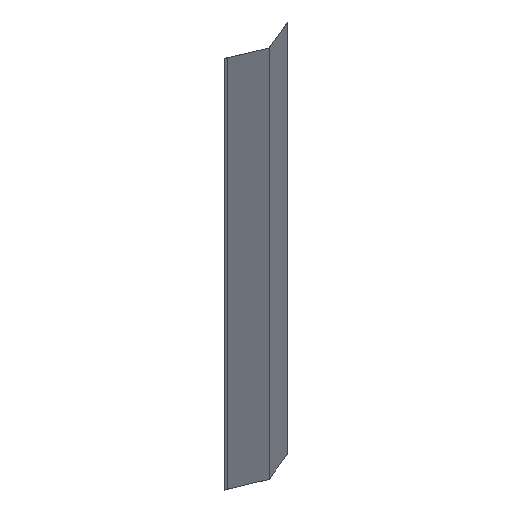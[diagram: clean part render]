
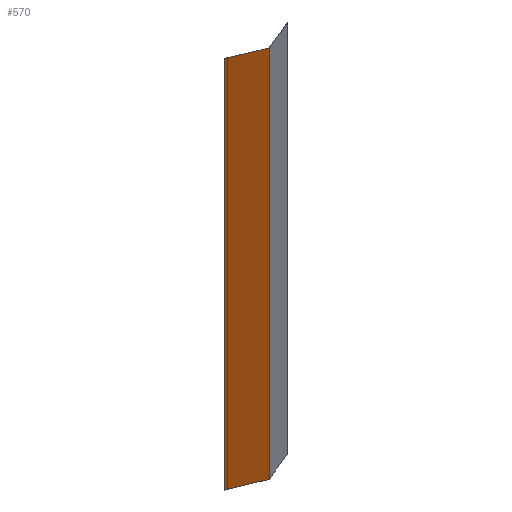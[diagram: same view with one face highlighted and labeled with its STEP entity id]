
A CAD part, isometric view. The second image highlights one B-rep face of the part: STEP entity #570.
In plain terms, the highlighted planar face has unit normal (-0.383, -0.924, 0).
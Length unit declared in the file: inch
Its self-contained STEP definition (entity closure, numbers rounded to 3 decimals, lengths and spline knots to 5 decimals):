
#2 = VERTEX_POINT ( 'NONE', #174 ) ;
#29 = AXIS2_PLACEMENT_3D ( 'NONE', #1010, #430, #95 ) ;
#54 = ORIENTED_EDGE ( 'NONE', *, *, #1053, .T. ) ;
#70 = DIRECTION ( 'NONE',  ( 0., 0., -1. ) ) ;
#78 = CARTESIAN_POINT ( 'NONE',  ( -0.01913, 0.00793, 120. ) ) ;
#95 = DIRECTION ( 'NONE',  ( 0.924, -0.383, 0. ) ) ;
#110 = DIRECTION ( 'NONE',  ( -0.924, 0.383, 0. ) ) ;
#162 = DIRECTION ( 'NONE',  ( 0., 0., -1. ) ) ;
#170 = ORIENTED_EDGE ( 'NONE', *, *, #270, .T. ) ;
#174 = CARTESIAN_POINT ( 'NONE',  ( -10.14947, 4.20405, 120. ) ) ;
#180 = EDGE_CURVE ( 'NONE', #283, #536, #310, .T. ) ;
#220 = CARTESIAN_POINT ( 'NONE',  ( -10.14947, 4.20405, 0. ) ) ;
#252 = VERTEX_POINT ( 'NONE', #220 ) ;
#270 = EDGE_CURVE ( 'NONE', #2, #252, #557, .T. ) ;
#283 = VERTEX_POINT ( 'NONE', #460 ) ;
#310 = LINE ( 'NONE', #78, #752 ) ;
#342 = LINE ( 'NONE', #812, #509 ) ;
#358 = EDGE_CURVE ( 'NONE', #536, #252, #342, .T. ) ;
#383 = VECTOR ( 'NONE', #162, 39.37008 ) ;
#430 = DIRECTION ( 'NONE',  ( -0.383, -0.924, 0. ) ) ;
#460 = CARTESIAN_POINT ( 'NONE',  ( -0.01913, 0.00793, 120. ) ) ;
#509 = VECTOR ( 'NONE', #110, 39.37008 ) ;
#536 = VERTEX_POINT ( 'NONE', #961 ) ;
#555 = LINE ( 'NONE', #890, #956 ) ;
#557 = LINE ( 'NONE', #1065, #383 ) ;
#570 = ADVANCED_FACE ( 'NONE', ( #939 ), #842, .T. ) ;
#583 = ORIENTED_EDGE ( 'NONE', *, *, #358, .F. ) ;
#642 = DIRECTION ( 'NONE',  ( -0.924, 0.383, 0. ) ) ;
#710 = ORIENTED_EDGE ( 'NONE', *, *, #180, .F. ) ;
#752 = VECTOR ( 'NONE', #70, 39.37008 ) ;
#812 = CARTESIAN_POINT ( 'NONE',  ( -0.01913, 0.00793, 0. ) ) ;
#842 = PLANE ( 'NONE',  #29 ) ;
#890 = CARTESIAN_POINT ( 'NONE',  ( -0.01913, 0.00793, 120. ) ) ;
#912 = EDGE_LOOP ( 'NONE', ( #583, #710, #54, #170 ) ) ;
#939 = FACE_OUTER_BOUND ( 'NONE', #912, .T. ) ;
#956 = VECTOR ( 'NONE', #642, 39.37008 ) ;
#961 = CARTESIAN_POINT ( 'NONE',  ( -0.01913, 0.00793, 0. ) ) ;
#1010 = CARTESIAN_POINT ( 'NONE',  ( -0.01913, 0.00793, 120. ) ) ;
#1053 = EDGE_CURVE ( 'NONE', #283, #2, #555, .T. ) ;
#1065 = CARTESIAN_POINT ( 'NONE',  ( -10.14947, 4.20405, 120. ) ) ;
